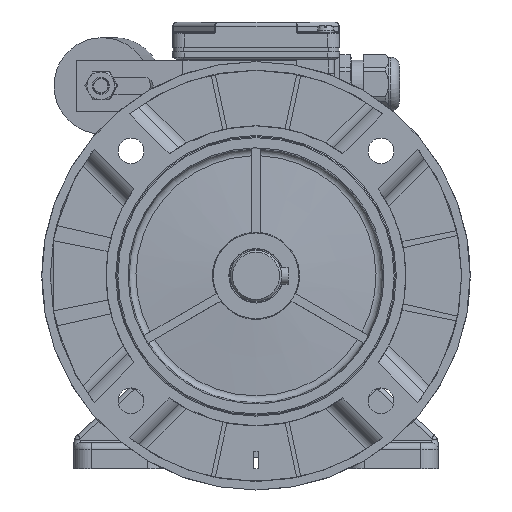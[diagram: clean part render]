
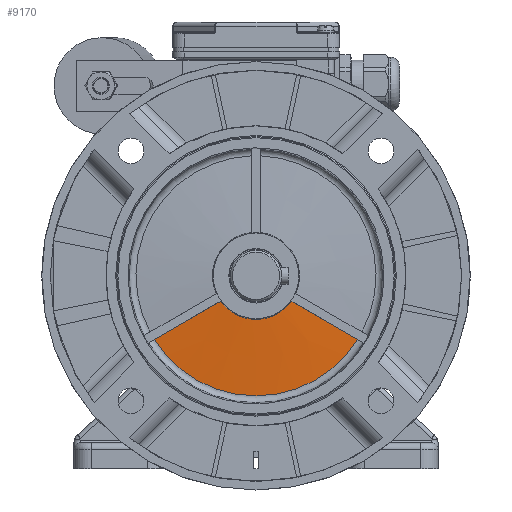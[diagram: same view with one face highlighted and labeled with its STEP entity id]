
A CAD part, left-side view. The second image highlights one B-rep face of the part: STEP entity #9170.
In plain terms, the highlighted conical face has half-angle 85.7 degrees and reference radius 56.036 mm.
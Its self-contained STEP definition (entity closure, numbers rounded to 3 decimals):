
#9170 = ADVANCED_FACE( '', ( #18387 ), #18388, .T. );
#18387 = FACE_OUTER_BOUND( '', #41458, .T. );
#18388 = CONICAL_SURFACE( '', #41459, 56.036, 1.496 );
#41458 = EDGE_LOOP( '', ( #67831, #67832, #67833, #67834 ) );
#41459 = AXIS2_PLACEMENT_3D( '', #67835, #67836, #67837 );
#67831 = ORIENTED_EDGE( '', *, *, #77026, .F. );
#67832 = ORIENTED_EDGE( '', *, *, #79672, .F. );
#67833 = ORIENTED_EDGE( '', *, *, #74171, .F. );
#67834 = ORIENTED_EDGE( '', *, *, #71391, .T. );
#67835 = CARTESIAN_POINT( '', ( 0., 0., 16.952 ) );
#67836 = DIRECTION( '', ( 0., 0., 1. ) );
#67837 = DIRECTION( '', ( 1., 0., 0. ) );
#71391 = EDGE_CURVE( '', #84795, #84792, #84796, .T. );
#74171 = EDGE_CURVE( '', #84795, #89302, #89303, .T. );
#77026 = EDGE_CURVE( '', #93434, #84792, #93436, .T. );
#79672 = EDGE_CURVE( '', #89302, #93434, #96495, .T. );
#84792 = VERTEX_POINT( '', #104753 );
#84795 = VERTEX_POINT( '', #104762 );
#84796 = CIRCLE( '', #104763, 20.327 );
#89302 = VERTEX_POINT( '', #114031 );
#89303 = B_SPLINE_CURVE_WITH_KNOTS( '', 3, ( #114032, #114033, #114034, #114035 ), .UNSPECIFIED., .F., .F., ( 4, 4 ), ( 0.025, 0.061 ), .UNSPECIFIED. );
#93434 = VERTEX_POINT( '', #123307 );
#93436 = B_SPLINE_CURVE_WITH_KNOTS( '', 3, ( #123326, #123327, #123328, #123329 ), .UNSPECIFIED., .F., .F., ( 4, 4 ), ( 0.023, 0.059 ), .UNSPECIFIED. );
#96495 = CIRCLE( '', #130201, 56.036 );
#104753 = CARTESIAN_POINT( '', ( 16.519, -11.846, 14.267 ) );
#104762 = CARTESIAN_POINT( '', ( -16.519, -11.846, 14.267 ) );
#104763 = AXIS2_PLACEMENT_3D( '', #133593, #133594, #133595 );
#114031 = CARTESIAN_POINT( '', ( -47.497, -29.732, 16.952 ) );
#114032 = CARTESIAN_POINT( '', ( -16.519, -11.846, 14.267 ) );
#114033 = CARTESIAN_POINT( '', ( -26.845, -17.808, 15.159 ) );
#114034 = CARTESIAN_POINT( '', ( -37.171, -23.77, 16.056 ) );
#114035 = CARTESIAN_POINT( '', ( -47.497, -29.732, 16.952 ) );
#123307 = CARTESIAN_POINT( '', ( 47.497, -29.732, 16.952 ) );
#123326 = CARTESIAN_POINT( '', ( 47.497, -29.732, 16.952 ) );
#123327 = CARTESIAN_POINT( '', ( 37.171, -23.77, 16.056 ) );
#123328 = CARTESIAN_POINT( '', ( 26.845, -17.808, 15.159 ) );
#123329 = CARTESIAN_POINT( '', ( 16.519, -11.846, 14.267 ) );
#130201 = AXIS2_PLACEMENT_3D( '', #143023, #143024, #143025 );
#133593 = CARTESIAN_POINT( '', ( 0., 0., 14.267 ) );
#133594 = DIRECTION( '', ( 0., 0., 1. ) );
#133595 = DIRECTION( '', ( 1., 0., 0. ) );
#143023 = CARTESIAN_POINT( '', ( 0., 0., 16.952 ) );
#143024 = DIRECTION( '', ( 0., 0., 1. ) );
#143025 = DIRECTION( '', ( 1., 0., 0. ) );
